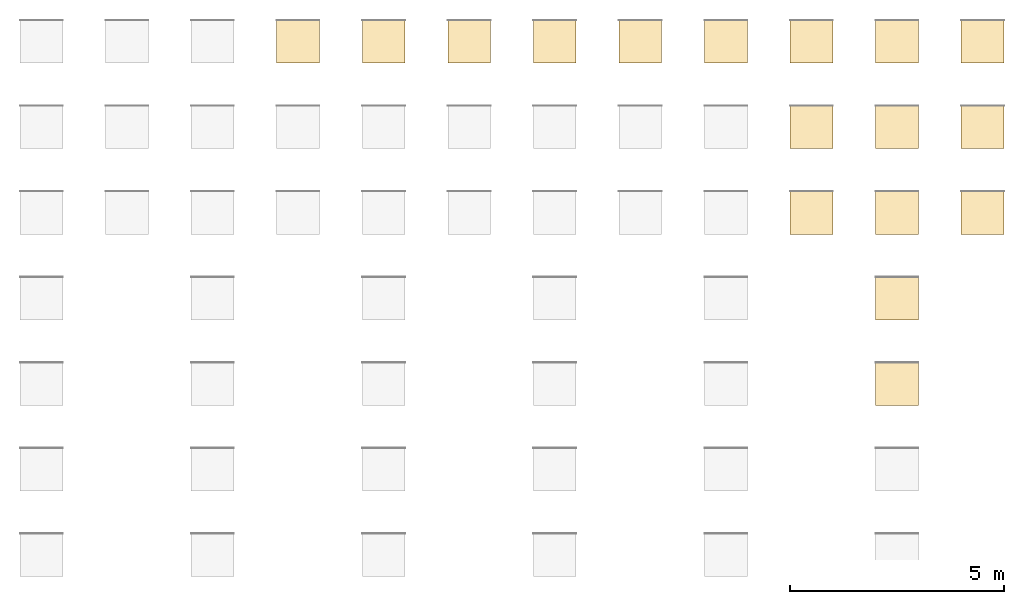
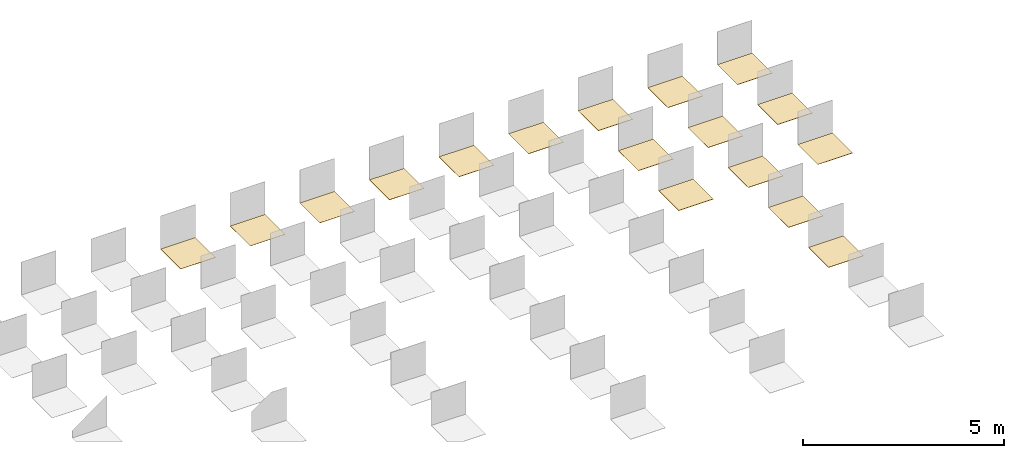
# One storey, part 6 of 6: 17 coverings.
"""IFC2X3 building model written with IfcOpenShell, lengths in millimetres."""

from ifc_helpers import new_model, entity, si_unit, converted_unit, derived_unit, direction, frame, frame_2d, origin, origin_2d_with_axis, place, context, subcontext, project, spatial, rectangle, extrude, material, layer, layer_set, layer_usage, type_object, element, save


model = new_model("IFC2X3")

# Units and contexts
model_context = context("Model", 3, precision=0.01, world=origin(), true_north=direction((6.12303176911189e-17, 1.0)))
body_context = subcontext(model_context, "Body", "Model", "MODEL_VIEW")
ifc_project = project(units=[si_unit("LENGTHUNIT", "METRE", prefix="MILLI"), si_unit("AREAUNIT", "SQUARE_METRE"), si_unit("VOLUMEUNIT", "CUBIC_METRE"), converted_unit("PLANEANGLEUNIT", "DEGREE", entity("IfcRatioMeasure", 0.0174532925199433), si_unit("PLANEANGLEUNIT", "RADIAN"), dimensions=[0, 0, 0, 0, 0, 0, 0]), si_unit("MASSUNIT", "GRAM", prefix="KILO"), derived_unit("MASSDENSITYUNIT", [(si_unit("MASSUNIT", "GRAM", prefix="KILO"), 1), (si_unit("LENGTHUNIT", "METRE"), -3)]), derived_unit("MOMENTOFINERTIAUNIT", [(si_unit("LENGTHUNIT", "METRE"), 4)]), si_unit("TIMEUNIT", "SECOND"), si_unit("FREQUENCYUNIT", "HERTZ"), si_unit("THERMODYNAMICTEMPERATUREUNIT", "DEGREE_CELSIUS"), derived_unit("THERMALTRANSMITTANCEUNIT", [(si_unit("MASSUNIT", "GRAM", prefix="KILO"), 1), (si_unit("THERMODYNAMICTEMPERATUREUNIT", "KELVIN"), -1), (si_unit("TIMEUNIT", "SECOND"), -3)]), derived_unit("VOLUMETRICFLOWRATEUNIT", [(si_unit("LENGTHUNIT", "METRE"), 3), (si_unit("TIMEUNIT", "SECOND"), -1)]), si_unit("ELECTRICCURRENTUNIT", "AMPERE"), si_unit("ELECTRICVOLTAGEUNIT", "VOLT"), si_unit("POWERUNIT", "WATT"), si_unit("FORCEUNIT", "NEWTON", prefix="KILO"), si_unit("ILLUMINANCEUNIT", "LUX"), si_unit("LUMINOUSFLUXUNIT", "LUMEN"), si_unit("LUMINOUSINTENSITYUNIT", "CANDELA"), derived_unit("USERDEFINED", [(si_unit("MASSUNIT", "GRAM", prefix="KILO"), -1), (si_unit("LENGTHUNIT", "METRE"), -2), (si_unit("TIMEUNIT", "SECOND"), 3), (si_unit("LUMINOUSFLUXUNIT", "LUMEN"), 1)]), derived_unit("LINEARVELOCITYUNIT", [(si_unit("LENGTHUNIT", "METRE"), 1), (si_unit("TIMEUNIT", "SECOND"), -1)]), si_unit("PRESSUREUNIT", "PASCAL"), derived_unit("USERDEFINED", [(si_unit("LENGTHUNIT", "METRE"), -2), (si_unit("MASSUNIT", "GRAM", prefix="KILO"), 1), (si_unit("TIMEUNIT", "SECOND"), -2)]), derived_unit("LINEARFORCEUNIT", [(si_unit("MASSUNIT", "GRAM", prefix="KILO"), 1), (si_unit("LENGTHUNIT", "METRE"), 1), (si_unit("TIMEUNIT", "SECOND"), -2), (si_unit("LENGTHUNIT", "METRE"), -1)]), derived_unit("PLANARFORCEUNIT", [(si_unit("MASSUNIT", "GRAM", prefix="KILO"), 1), (si_unit("LENGTHUNIT", "METRE"), 1), (si_unit("TIMEUNIT", "SECOND"), -2), (si_unit("LENGTHUNIT", "METRE"), -2)])], contexts=[model_context])

# Site, building, storey
site_placement = place(None, origin())
site = spatial("IfcSite", under=ifc_project, at=site_placement, Name="Default", CompositionType="ELEMENT")
building_placement = place(site_placement, origin())
building = spatial("IfcBuilding", under=site, at=building_placement, CompositionType="ELEMENT")
storey_placement = place(building_placement, origin())
storey = spatial("IfcBuildingStorey", under=building, at=storey_placement, Name="Level 1", CompositionType="ELEMENT", Elevation=0.0)

# Coverings
ifc_material_1 = material(Name="REVIGRÉS-URBAN-BASE-30X30-NAT-BONE")
ifc_layer_1 = layer(ifc_material_1, 8.5)
ifc_layer_set_1 = layer_set([ifc_layer_1], Name="Floor:REVIGRÉS-URBAN-BASE-30X30-NAT-BONE")
ifc_layer_usage_1 = layer_usage(ifc_layer_set_1, "AXIS3", "POSITIVE", 0.0)
covering_type_1 = type_object("IfcCoveringType", Name="Floor:REVIGRÉS-URBAN-BASE-30X30-NAT-BONE", PredefinedType="CLADDING", material=ifc_layer_set_1)
covering_1_placement = place(storey_placement, origin())
element("IfcCovering", 1, at=covering_1_placement, inside=storey, type_object=covering_type_1, material=ifc_layer_usage_1, Name="Floor:REVIGRÉS-URBAN-BASE-30X30-NAT-BONE", ObjectType="Floor:REVIGRÉS-URBAN-BASE-30X30-NAT-BONE", PredefinedType="CLADDING", context=body_context, shape_type="SweptSolid", body=[
    extrude(rectangle(XDim=1000.0, YDim=1000.0, at=frame_2d((-1.4210854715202e-13, 1.08002495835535e-12), x_axis=(1.0, 0.0))), frame((9278.64271399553, -1691.92420263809, 0.0), z_axis=(0.0, 0.0, -1.0), x_axis=(0.0, 1.0, 0.0)), (0.0, 0.0, 1.0), 8.5),
])
ifc_material_2 = material(Name="REVIGRÉS-URBAN-BASE-30X30-RECT-CRAFT")
ifc_layer_2 = layer(ifc_material_2, 7.7)
ifc_layer_set_2 = layer_set([ifc_layer_2], Name="Floor:REVIGRÉS-URBAN-BASE-29,5X29,5-RECT-CRAFT")
ifc_layer_usage_2 = layer_usage(ifc_layer_set_2, "AXIS3", "POSITIVE", 0.0)
covering_type_2 = type_object("IfcCoveringType", Name="Floor:REVIGRÉS-URBAN-BASE-29,5X29,5-RECT-CRAFT", PredefinedType="CLADDING", material=ifc_layer_set_2)
covering_2_placement = place(storey_placement, origin())
element("IfcCovering", 2, at=covering_2_placement, inside=storey, type_object=covering_type_2, material=ifc_layer_usage_2, Name="Floor:REVIGRÉS-URBAN-BASE-29,5X29,5-RECT-CRAFT", ObjectType="Floor:REVIGRÉS-URBAN-BASE-29,5X29,5-RECT-CRAFT", PredefinedType="CLADDING", context=body_context, shape_type="SweptSolid", body=[
    extrude(rectangle(XDim=1000.0, YDim=999.999999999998, at=frame_2d((-1.4210854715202e-13, 0.0), x_axis=(1.0, 0.0))), frame((11278.6427139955, -1691.92420263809, 0.0), z_axis=(0.0, 0.0, -1.0), x_axis=(0.0, 1.0, 0.0)), (0.0, 0.0, 1.0), 7.7),
])
ifc_material_3 = material(Name="REVIGRÉS-URBAN-BASE-30X30-NAT-CRAFT")
ifc_layer_3 = layer(ifc_material_3, 8.5)
ifc_layer_set_3 = layer_set([ifc_layer_3], Name="Floor:REVIGRÉS-URBAN-BASE-30X30-NAT-CRAFT")
ifc_layer_usage_3 = layer_usage(ifc_layer_set_3, "AXIS3", "POSITIVE", 0.0)
covering_type_3 = type_object("IfcCoveringType", Name="Floor:REVIGRÉS-URBAN-BASE-30X30-NAT-CRAFT", PredefinedType="CLADDING", material=ifc_layer_set_3)
covering_3_placement = place(storey_placement, origin())
element("IfcCovering", 3, at=covering_3_placement, inside=storey, type_object=covering_type_3, material=ifc_layer_usage_3, Name="Floor:REVIGRÉS-URBAN-BASE-30X30-NAT-CRAFT", ObjectType="Floor:REVIGRÉS-URBAN-BASE-30X30-NAT-CRAFT", PredefinedType="CLADDING", context=body_context, shape_type="SweptSolid", body=[
    extrude(rectangle(XDim=1000.0, YDim=1000.0, at=frame_2d((-1.4210854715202e-13, -1.08002495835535e-12), x_axis=(1.0, 0.0))), frame((13278.6427139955, -1691.92420263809, 0.0), z_axis=(0.0, 0.0, -1.0), x_axis=(0.0, 1.0, 0.0)), (0.0, 0.0, 1.0), 8.5),
])
ifc_material_4 = material(Name="REVIGRÉS-URBAN-BASE-30X30-RECT-FOG")
ifc_layer_4 = layer(ifc_material_4, 7.7)
ifc_layer_set_4 = layer_set([ifc_layer_4], Name="Floor:REVIGRÉS-URBAN-BASE-29,5X29,5-RECT-FOG")
ifc_layer_usage_4 = layer_usage(ifc_layer_set_4, "AXIS3", "POSITIVE", 0.0)
covering_type_4 = type_object("IfcCoveringType", Name="Floor:REVIGRÉS-URBAN-BASE-29,5X29,5-RECT-FOG", PredefinedType="CLADDING", material=ifc_layer_set_4)
covering_4_placement = place(storey_placement, origin())
element("IfcCovering", 4, at=covering_4_placement, inside=storey, type_object=covering_type_4, material=ifc_layer_usage_4, Name="Floor:REVIGRÉS-URBAN-BASE-29,5X29,5-RECT-FOG", ObjectType="Floor:REVIGRÉS-URBAN-BASE-29,5X29,5-RECT-FOG", PredefinedType="CLADDING", context=body_context, shape_type="SweptSolid", body=[
    extrude(rectangle(XDim=1000.0, YDim=1000.0, at=frame_2d((-1.4210854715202e-13, -1.08002495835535e-12), x_axis=(1.0, 0.0))), frame((15278.6427139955, -1691.92420263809, 0.0), z_axis=(0.0, 0.0, -1.0), x_axis=(0.0, 1.0, 0.0)), (0.0, 0.0, 1.0), 7.7),
])
ifc_material_5 = material(Name="REVIGRÉS-URBAN-BASE-30X30-NAT-FOG")
ifc_layer_5 = layer(ifc_material_5, 8.5)
ifc_layer_set_5 = layer_set([ifc_layer_5], Name="Floor:REVIGRÉS-URBAN-BASE-30X30-NAT-FOG")
ifc_layer_usage_5 = layer_usage(ifc_layer_set_5, "AXIS3", "POSITIVE", 0.0)
covering_type_5 = type_object("IfcCoveringType", Name="Floor:REVIGRÉS-URBAN-BASE-30X30-NAT-FOG", PredefinedType="CLADDING", material=ifc_layer_set_5)
covering_5_placement = place(storey_placement, origin())
element("IfcCovering", 5, at=covering_5_placement, inside=storey, type_object=covering_type_5, material=ifc_layer_usage_5, Name="Floor:REVIGRÉS-URBAN-BASE-30X30-NAT-FOG", ObjectType="Floor:REVIGRÉS-URBAN-BASE-30X30-NAT-FOG", PredefinedType="CLADDING", context=body_context, shape_type="SweptSolid", body=[
    extrude(rectangle(XDim=1000.0, YDim=1000.0, at=frame_2d((-1.4210854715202e-13, 1.08002495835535e-12), x_axis=(1.0, 0.0))), frame((17278.6427139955, -1691.92420263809, 0.0), z_axis=(0.0, 0.0, -1.0), x_axis=(0.0, 1.0, 0.0)), (0.0, 0.0, 1.0), 8.5),
])
ifc_material_6 = material(Name="REVIGRÉS-URBAN-BASE-30X30-RECT-GRIS")
ifc_layer_6 = layer(ifc_material_6, 7.7)
ifc_layer_set_6 = layer_set([ifc_layer_6], Name="Floor:REVIGRÉS-URBAN-BASE-29,5X29,5-RECT-GRIS")
ifc_layer_usage_6 = layer_usage(ifc_layer_set_6, "AXIS3", "POSITIVE", 0.0)
covering_type_6 = type_object("IfcCoveringType", Name="Floor:REVIGRÉS-URBAN-BASE-29,5X29,5-RECT-GRIS", PredefinedType="CLADDING", material=ifc_layer_set_6)
covering_6_placement = place(storey_placement, origin())
element("IfcCovering", 6, at=covering_6_placement, inside=storey, type_object=covering_type_6, material=ifc_layer_usage_6, Name="Floor:REVIGRÉS-URBAN-BASE-29,5X29,5-RECT-GRIS", ObjectType="Floor:REVIGRÉS-URBAN-BASE-29,5X29,5-RECT-GRIS", PredefinedType="CLADDING", context=body_context, shape_type="SweptSolid", body=[
    extrude(rectangle(XDim=1000.0, YDim=1000.0, at=frame_2d((-1.4210854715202e-13, -1.08002495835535e-12), x_axis=(1.0, 0.0))), frame((19278.6427139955, -1691.92420263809, 0.0), z_axis=(0.0, 0.0, -1.0), x_axis=(0.0, 1.0, 0.0)), (0.0, 0.0, 1.0), 7.7),
])
ifc_material_7 = material(Name="REVIGRÉS-URBAN-BASE-30X30-NAT-GRIS")
ifc_layer_7 = layer(ifc_material_7, 8.5)
ifc_layer_set_7 = layer_set([ifc_layer_7], Name="Floor:REVIGRÉS-URBAN-BASE-30X30-NAT-GRIS")
ifc_layer_usage_7 = layer_usage(ifc_layer_set_7, "AXIS3", "POSITIVE", 0.0)
covering_type_7 = type_object("IfcCoveringType", Name="Floor:REVIGRÉS-URBAN-BASE-30X30-NAT-GRIS", PredefinedType="CLADDING", material=ifc_layer_set_7)
covering_7_placement = place(storey_placement, origin())
element("IfcCovering", 7, at=covering_7_placement, inside=storey, type_object=covering_type_7, material=ifc_layer_usage_7, Name="Floor:REVIGRÉS-URBAN-BASE-30X30-NAT-GRIS", ObjectType="Floor:REVIGRÉS-URBAN-BASE-30X30-NAT-GRIS", PredefinedType="CLADDING", context=body_context, shape_type="SweptSolid", body=[
    extrude(rectangle(XDim=1000.0, YDim=999.999999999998, at=frame_2d((-1.4210854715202e-13, 0.0), x_axis=(1.0, 0.0))), frame((21278.6427139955, -1691.92420263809, 0.0), z_axis=(0.0, 0.0, -1.0), x_axis=(0.0, 1.0, 0.0)), (0.0, 0.0, 1.0), 8.5),
])
ifc_material_8 = material(Name="REVIGRÉS-URBAN-BASE-30X30-RECT-OFFWHITE")
ifc_layer_8 = layer(ifc_material_8, 7.7)
ifc_layer_set_8 = layer_set([ifc_layer_8], Name="Floor:REVIGRÉS-URBAN-BASE-29,5X29,5-RECT-OFFWHITE")
ifc_layer_usage_8 = layer_usage(ifc_layer_set_8, "AXIS3", "POSITIVE", 0.0)
covering_type_8 = type_object("IfcCoveringType", Name="Floor:REVIGRÉS-URBAN-BASE-29,5X29,5-RECT-OFFWHITE", PredefinedType="CLADDING", material=ifc_layer_set_8)
covering_8_placement = place(storey_placement, origin())
element("IfcCovering", 8, at=covering_8_placement, inside=storey, type_object=covering_type_8, material=ifc_layer_usage_8, Name="Floor:REVIGRÉS-URBAN-BASE-29,5X29,5-RECT-OFFWHITE", ObjectType="Floor:REVIGRÉS-URBAN-BASE-29,5X29,5-RECT-OFFWHITE", PredefinedType="CLADDING", context=body_context, shape_type="SweptSolid", body=[
    extrude(rectangle(XDim=1000.0, YDim=1000.0, at=frame_2d((-1.4210854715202e-13, 2.1600499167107e-12), x_axis=(1.0, 0.0))), frame((23278.6427139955, -1691.92420263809, 0.0), z_axis=(0.0, 0.0, -1.0), x_axis=(0.0, 1.0, 0.0)), (0.0, 0.0, 1.0), 7.7),
])
ifc_material_9 = material(Name="REVIGRÉS-URBAN-BASE-30X60-RECT-OFFWHITE")
ifc_layer_9 = layer(ifc_material_9, 8.5)
ifc_layer_set_9 = layer_set([ifc_layer_9], Name="Floor:REVIGRÉS-URBAN-BASE-29,5X59,2-RECT-OFFWHITE")
ifc_layer_usage_9 = layer_usage(ifc_layer_set_9, "AXIS3", "POSITIVE", 0.0)
covering_type_9 = type_object("IfcCoveringType", Name="Floor:REVIGRÉS-URBAN-BASE-29,5X59,2-RECT-OFFWHITE", PredefinedType="CLADDING", material=ifc_layer_set_9)
covering_9_placement = place(storey_placement, origin())
element("IfcCovering", 9, at=covering_9_placement, inside=storey, type_object=covering_type_9, material=ifc_layer_usage_9, Name="Floor:REVIGRÉS-URBAN-BASE-29,5X59,2-RECT-OFFWHITE", ObjectType="Floor:REVIGRÉS-URBAN-BASE-29,5X59,2-RECT-OFFWHITE", PredefinedType="CLADDING", context=body_context, shape_type="SweptSolid", body=[
    extrude(rectangle(XDim=1000.0, YDim=1000.0, at=frame_2d((-2.8421709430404e-13, -2.1600499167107e-12), x_axis=(1.0, 0.0))), frame((23278.6427139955, -3691.92420263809, 0.0), z_axis=(0.0, 0.0, -1.0), x_axis=(0.0, 1.0, 0.0)), (0.0, 0.0, 1.0), 8.5),
])
ifc_material_10 = material(Name="REVIGRÉS-URBAN-BASE-45X45-NAT-GRIS")
ifc_layer_10 = layer(ifc_material_10, 8.5)
ifc_layer_set_10 = layer_set([ifc_layer_10], Name="Floor:REVIGRÉS-URBAN-BASE-45X45-NAT-GRIS")
ifc_layer_usage_10 = layer_usage(ifc_layer_set_10, "AXIS3", "POSITIVE", 0.0)
covering_type_10 = type_object("IfcCoveringType", Name="Floor:REVIGRÉS-URBAN-BASE-45X45-NAT-GRIS", PredefinedType="CLADDING", material=ifc_layer_set_10)
covering_10_placement = place(storey_placement, origin())
element("IfcCovering", 10, at=covering_10_placement, inside=storey, type_object=covering_type_10, material=ifc_layer_usage_10, Name="Floor:REVIGRÉS-URBAN-BASE-45X45-NAT-GRIS", ObjectType="Floor:REVIGRÉS-URBAN-BASE-45X45-NAT-GRIS", PredefinedType="CLADDING", context=body_context, shape_type="SweptSolid", body=[
    extrude(rectangle(XDim=999.999999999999, YDim=999.999999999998, at=frame_2d((5.40012479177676e-13, 0.0), x_axis=(1.0, 0.0))), frame((21278.6427139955, -5691.92420263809, 0.0), z_axis=(0.0, 0.0, -1.0), x_axis=(0.0, 1.0, 0.0)), (0.0, 0.0, 1.0), 8.5),
])
ifc_material_11 = material(Name="REVIGRÉS-URBAN-BASE-45X45-RECT-OFFWHITE")
ifc_layer_11 = layer(ifc_material_11, 8.5)
ifc_layer_set_11 = layer_set([ifc_layer_11], Name="Floor:REVIGRÉS-URBAN-BASE-44,35X44,35-RECT-OFFWHITE")
ifc_layer_usage_11 = layer_usage(ifc_layer_set_11, "AXIS3", "POSITIVE", 0.0)
covering_type_11 = type_object("IfcCoveringType", Name="Floor:REVIGRÉS-URBAN-BASE-44,35X44,35-RECT-OFFWHITE", PredefinedType="CLADDING", material=ifc_layer_set_11)
covering_11_placement = place(storey_placement, origin())
element("IfcCovering", 11, at=covering_11_placement, inside=storey, type_object=covering_type_11, material=ifc_layer_usage_11, Name="Floor:REVIGRÉS-URBAN-BASE-44,35X44,35-RECT-OFFWHITE", ObjectType="Floor:REVIGRÉS-URBAN-BASE-44,35X44,35-RECT-OFFWHITE", PredefinedType="CLADDING", context=body_context, shape_type="SweptSolid", body=[
    extrude(rectangle(XDim=999.999999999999, YDim=1000.0, at=frame_2d((5.40012479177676e-13, 2.1600499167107e-12), x_axis=(1.0, 0.0))), frame((23278.6427139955, -5691.92420263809, 0.0), z_axis=(0.0, 0.0, -1.0), x_axis=(0.0, 1.0, 0.0)), (0.0, 0.0, 1.0), 8.5),
])
ifc_material_12 = material(Name="REVIGRÉS-URBAN-BASE-45X90-RECT-OFFWHITE")
ifc_layer_12 = layer(ifc_material_12, 10.5)
ifc_layer_set_12 = layer_set([ifc_layer_12], Name="Floor:REVIGRÉS-URBAN-BASE-44,35X88,9-RECT-OFFWHITE")
ifc_layer_usage_12 = layer_usage(ifc_layer_set_12, "AXIS3", "POSITIVE", 0.0)
covering_type_12 = type_object("IfcCoveringType", Name="Floor:REVIGRÉS-URBAN-BASE-44,35X88,9-RECT-OFFWHITE", PredefinedType="CLADDING", material=ifc_layer_set_12)
covering_12_placement = place(storey_placement, origin())
element("IfcCovering", 12, at=covering_12_placement, inside=storey, type_object=covering_type_12, material=ifc_layer_usage_12, Name="Floor:REVIGRÉS-URBAN-BASE-44,35X88,9-RECT-OFFWHITE", ObjectType="Floor:REVIGRÉS-URBAN-BASE-44,35X88,9-RECT-OFFWHITE", PredefinedType="CLADDING", context=body_context, shape_type="SweptSolid", body=[
    extrude(rectangle(XDim=1000.0, YDim=1000.0, at=frame_2d((1.08002495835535e-12, 2.1600499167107e-12), x_axis=(1.0, 0.0))), frame((23278.6427139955, -7691.92420263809, 0.0), z_axis=(0.0, 0.0, -1.0), x_axis=(0.0, 1.0, 0.0)), (0.0, 0.0, 1.0), 10.5),
])
ifc_material_13 = material(Name="REVIGRÉS-URBAN-BASE-60X60-RECT-OFFWHITE")
ifc_layer_13 = layer(ifc_material_13, 10.5)
ifc_layer_set_13 = layer_set([ifc_layer_13], Name="Floor:REVIGRÉS-URBAN-BASE-59,2X59,2-RECT-OFFWHITE")
ifc_layer_usage_13 = layer_usage(ifc_layer_set_13, "AXIS3", "POSITIVE", 0.0)
covering_type_13 = type_object("IfcCoveringType", Name="Floor:REVIGRÉS-URBAN-BASE-59,2X59,2-RECT-OFFWHITE", PredefinedType="CLADDING", material=ifc_layer_set_13)
covering_13_placement = place(storey_placement, origin())
element("IfcCovering", 13, at=covering_13_placement, inside=storey, type_object=covering_type_13, material=ifc_layer_usage_13, Name="Floor:REVIGRÉS-URBAN-BASE-59,2X59,2-RECT-OFFWHITE", ObjectType="Floor:REVIGRÉS-URBAN-BASE-59,2X59,2-RECT-OFFWHITE", PredefinedType="CLADDING", context=body_context, shape_type="SweptSolid", body=[
    extrude(rectangle(XDim=1000.0, YDim=1000.0, at=frame_2d((-1.08002495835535e-12, 2.1600499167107e-12), x_axis=(1.0, 0.0))), frame((23278.6427139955, -9691.92420263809, 0.0), z_axis=(0.0, 0.0, -1.0), x_axis=(0.0, 1.0, 0.0)), (0.0, 0.0, 1.0), 10.5),
])
ifc_material_14 = material(Name="REVIGRÉS-URBAN-BASE-30X30-NAT-OFFWHITE")
ifc_layer_14 = layer(ifc_material_14, 8.5)
ifc_layer_set_14 = layer_set([ifc_layer_14], Name="Floor:REVIGRÉS-URBAN-BASE-30X30-NAT-OFFWHITE")
ifc_layer_usage_14 = layer_usage(ifc_layer_set_14, "AXIS3", "POSITIVE", 0.0)
covering_type_14 = type_object("IfcCoveringType", Name="Floor:REVIGRÉS-URBAN-BASE-30X30-NAT-OFFWHITE", PredefinedType="CLADDING", material=ifc_layer_set_14)
covering_14_placement = place(storey_placement, origin())
element("IfcCovering", 14, at=covering_14_placement, inside=storey, type_object=covering_type_14, material=ifc_layer_usage_14, Name="Floor:REVIGRÉS-URBAN-BASE-30X30-NAT-OFFWHITE", ObjectType="Floor:REVIGRÉS-URBAN-BASE-30X30-NAT-OFFWHITE", PredefinedType="CLADDING", context=body_context, shape_type="SweptSolid", body=[
    extrude(rectangle(XDim=1000.0, YDim=1000.0, at=frame_2d((-1.4210854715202e-13, -2.1600499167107e-12), x_axis=(1.0, 0.0))), frame((25278.6427139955, -1691.9242026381, 0.0), z_axis=(0.0, 0.0, -1.0), x_axis=(0.0, 1.0, 0.0)), (0.0, 0.0, 1.0), 8.5),
])
ifc_material_15 = material(Name="REVIGRÉS-URBAN-BASE-45X45-NAT-OFFWHITE")
ifc_layer_15 = layer(ifc_material_15, 8.5)
ifc_layer_set_15 = layer_set([ifc_layer_15], Name="Floor:REVIGRÉS-URBAN-BASE-45X45-NAT-OFFWHITE")
ifc_layer_usage_15 = layer_usage(ifc_layer_set_15, "AXIS3", "POSITIVE", 0.0)
covering_type_15 = type_object("IfcCoveringType", Name="Floor:REVIGRÉS-URBAN-BASE-45X45-NAT-OFFWHITE", PredefinedType="CLADDING", material=ifc_layer_set_15)
covering_15_placement = place(storey_placement, origin())
element("IfcCovering", 15, at=covering_15_placement, inside=storey, type_object=covering_type_15, material=ifc_layer_usage_15, Name="Floor:REVIGRÉS-URBAN-BASE-45X45-NAT-OFFWHITE", ObjectType="Floor:REVIGRÉS-URBAN-BASE-45X45-NAT-OFFWHITE", PredefinedType="CLADDING", context=body_context, shape_type="SweptSolid", body=[
    extrude(rectangle(XDim=999.999999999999, YDim=1000.0, at=frame_2d((5.40012479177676e-13, -2.1600499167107e-12), x_axis=(1.0, 0.0))), frame((25278.6427139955, -5691.9242026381, 0.0), z_axis=(0.0, 0.0, -1.0), x_axis=(0.0, 1.0, 0.0)), (0.0, 0.0, 1.0), 8.5),
])
ifc_material_16 = material(Name="REVIGRÉS-URBAN-BASE-30X60-NAT-GRIS")
ifc_layer_16 = layer(ifc_material_16, 8.5)
ifc_layer_set_16 = layer_set([ifc_layer_16], Name="Floor:REVIGRÉS-URBAN-BASE-30X60-NAT-GRIS")
ifc_layer_usage_16 = layer_usage(ifc_layer_set_16, "AXIS3", "POSITIVE", 0.0)
covering_type_16 = type_object("IfcCoveringType", Name="Floor:REVIGRÉS-URBAN-BASE-30X60-NAT-GRIS", PredefinedType="CLADDING", material=ifc_layer_set_16)
covering_16_placement = place(storey_placement, origin())
element("IfcCovering", 16, at=covering_16_placement, inside=storey, type_object=covering_type_16, material=ifc_layer_usage_16, Name="Floor:REVIGRÉS-URBAN-BASE-30X60-NAT-GRIS", ObjectType="Floor:REVIGRÉS-URBAN-BASE-30X60-NAT-GRIS", PredefinedType="CLADDING", context=body_context, shape_type="SweptSolid", body=[
    extrude(rectangle(XDim=999.999999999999, YDim=1000.00000000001, at=origin_2d_with_axis()), frame((21278.6427139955, -3691.9242026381, 0.0), z_axis=(0.0, 0.0, -1.0), x_axis=(0.0, 1.0, 0.0)), (0.0, 0.0, 1.0), 8.5),
])
ifc_material_17 = material(Name="REVIGRÉS-URBAN-BASE-30X60-NAT-OFFWHITE")
ifc_layer_17 = layer(ifc_material_17, 8.5)
ifc_layer_set_17 = layer_set([ifc_layer_17], Name="Floor:REVIGRÉS-URBAN-BASE-30X60-NAT-OFFWHITE")
ifc_layer_usage_17 = layer_usage(ifc_layer_set_17, "AXIS3", "POSITIVE", 0.0)
covering_type_17 = type_object("IfcCoveringType", Name="Floor:REVIGRÉS-URBAN-BASE-30X60-NAT-OFFWHITE", PredefinedType="CLADDING", material=ifc_layer_set_17)
covering_17_placement = place(storey_placement, origin())
element("IfcCovering", 17, at=covering_17_placement, inside=storey, type_object=covering_type_17, material=ifc_layer_usage_17, Name="Floor:REVIGRÉS-URBAN-BASE-30X60-NAT-OFFWHITE", ObjectType="Floor:REVIGRÉS-URBAN-BASE-30X60-NAT-OFFWHITE", PredefinedType="CLADDING", context=body_context, shape_type="SweptSolid", body=[
    extrude(rectangle(XDim=999.999999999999, YDim=1000.0, at=frame_2d((0.0, 2.1600499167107e-12), x_axis=(1.0, 0.0))), frame((25278.6427139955, -3691.9242026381, 0.0), z_axis=(0.0, 0.0, -1.0), x_axis=(0.0, 1.0, 0.0)), (0.0, 0.0, 1.0), 8.5),
])

save(model, "model.ifc")
